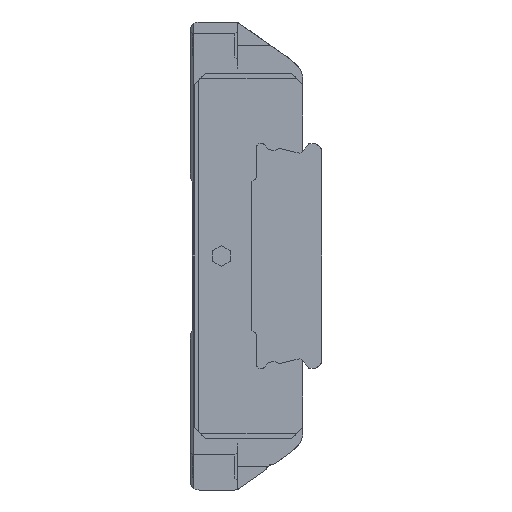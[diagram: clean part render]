
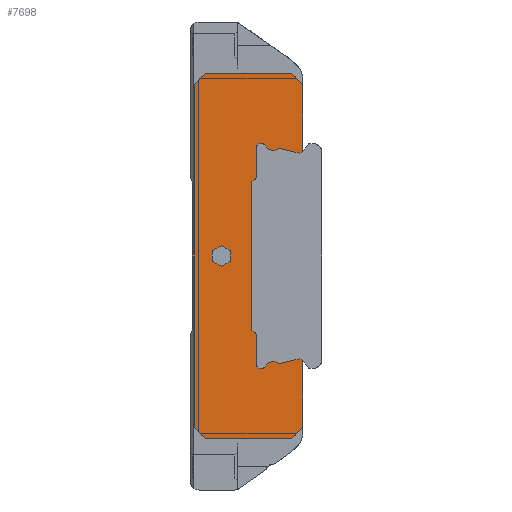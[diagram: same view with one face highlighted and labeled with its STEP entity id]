
A CAD part, left-side view. The second image highlights one B-rep face of the part: STEP entity #7698.
In plain terms, the highlighted planar face has unit normal (-1, 0, 0).
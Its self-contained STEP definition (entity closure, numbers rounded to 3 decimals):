
#467=CIRCLE('',#8677,1.1);
#468=CIRCLE('',#8678,0.5);
#469=CIRCLE('',#8679,0.5);
#470=CIRCLE('',#8680,1.03);
#471=CIRCLE('',#8681,0.2);
#472=CIRCLE('',#8682,0.2);
#473=CIRCLE('',#8683,1.03);
#474=CIRCLE('',#8684,0.1);
#475=CIRCLE('',#8685,0.1);
#476=CIRCLE('',#8686,1.03);
#477=CIRCLE('',#8687,0.2);
#478=CIRCLE('',#8688,0.2);
#479=CIRCLE('',#8689,1.03);
#2529=ORIENTED_EDGE('',*,*,#3639,.T.);
#2530=ORIENTED_EDGE('',*,*,#3640,.T.);
#2531=ORIENTED_EDGE('',*,*,#3641,.F.);
#2532=ORIENTED_EDGE('',*,*,#3481,.F.);
#2533=ORIENTED_EDGE('',*,*,#3464,.F.);
#2534=ORIENTED_EDGE('',*,*,#3460,.F.);
#2535=ORIENTED_EDGE('',*,*,#3454,.F.);
#2536=ORIENTED_EDGE('',*,*,#3479,.F.);
#2537=ORIENTED_EDGE('',*,*,#3441,.F.);
#2538=ORIENTED_EDGE('',*,*,#3473,.F.);
#2539=ORIENTED_EDGE('',*,*,#3470,.F.);
#2540=ORIENTED_EDGE('',*,*,#3582,.F.);
#2541=ORIENTED_EDGE('',*,*,#3642,.F.);
#2542=ORIENTED_EDGE('',*,*,#3643,.T.);
#2543=ORIENTED_EDGE('',*,*,#3644,.F.);
#2544=ORIENTED_EDGE('',*,*,#3645,.T.);
#2545=ORIENTED_EDGE('',*,*,#3646,.T.);
#2546=ORIENTED_EDGE('',*,*,#3647,.T.);
#2547=ORIENTED_EDGE('',*,*,#3648,.T.);
#2548=ORIENTED_EDGE('',*,*,#3649,.T.);
#2549=ORIENTED_EDGE('',*,*,#3650,.F.);
#2550=ORIENTED_EDGE('',*,*,#3651,.T.);
#2551=ORIENTED_EDGE('',*,*,#3652,.T.);
#2552=ORIENTED_EDGE('',*,*,#3653,.T.);
#2553=ORIENTED_EDGE('',*,*,#3654,.F.);
#2554=ORIENTED_EDGE('',*,*,#3655,.T.);
#2555=ORIENTED_EDGE('',*,*,#3656,.T.);
#2556=ORIENTED_EDGE('',*,*,#3657,.T.);
#2557=ORIENTED_EDGE('',*,*,#3658,.T.);
#2558=ORIENTED_EDGE('',*,*,#3659,.T.);
#2559=ORIENTED_EDGE('',*,*,#3660,.F.);
#3441=EDGE_CURVE('',#4293,#4294,#4727,.T.);
#3454=EDGE_CURVE('',#4304,#4305,#4740,.T.);
#3460=EDGE_CURVE('',#4305,#4309,#4746,.T.);
#3464=EDGE_CURVE('',#4309,#4311,#4750,.T.);
#3470=EDGE_CURVE('',#4315,#4316,#4756,.T.);
#3473=EDGE_CURVE('',#4316,#4293,#4759,.T.);
#3479=EDGE_CURVE('',#4294,#4304,#4765,.T.);
#3481=EDGE_CURVE('',#4311,#4317,#4767,.T.);
#3582=EDGE_CURVE('',#4393,#4315,#4816,.T.);
#3639=EDGE_CURVE('',#4419,#4419,#467,.T.);
#3640=EDGE_CURVE('',#4420,#4421,#4851,.T.);
#3641=EDGE_CURVE('',#4317,#4421,#468,.T.);
#3642=EDGE_CURVE('',#4422,#4393,#469,.T.);
#3643=EDGE_CURVE('',#4422,#4423,#4852,.T.);
#3644=EDGE_CURVE('',#4424,#4423,#470,.T.);
#3645=EDGE_CURVE('',#4424,#4425,#471,.T.);
#3646=EDGE_CURVE('',#4425,#4426,#4853,.T.);
#3647=EDGE_CURVE('',#4426,#4427,#4854,.T.);
#3648=EDGE_CURVE('',#4427,#4428,#472,.T.);
#3649=EDGE_CURVE('',#4428,#4429,#4855,.T.);
#3650=EDGE_CURVE('',#4430,#4429,#473,.T.);
#3651=EDGE_CURVE('',#4430,#4431,#474,.T.);
#3652=EDGE_CURVE('',#4431,#4432,#4856,.T.);
#3653=EDGE_CURVE('',#4432,#4433,#475,.T.);
#3654=EDGE_CURVE('',#4434,#4433,#476,.T.);
#3655=EDGE_CURVE('',#4434,#4435,#4857,.T.);
#3656=EDGE_CURVE('',#4435,#4436,#477,.T.);
#3657=EDGE_CURVE('',#4436,#4437,#4858,.T.);
#3658=EDGE_CURVE('',#4437,#4438,#4859,.T.);
#3659=EDGE_CURVE('',#4438,#4439,#478,.T.);
#3660=EDGE_CURVE('',#4420,#4439,#479,.T.);
#4293=VERTEX_POINT('',#12760);
#4294=VERTEX_POINT('',#12762);
#4304=VERTEX_POINT('',#12785);
#4305=VERTEX_POINT('',#12787);
#4309=VERTEX_POINT('',#12799);
#4311=VERTEX_POINT('',#12806);
#4315=VERTEX_POINT('',#12816);
#4316=VERTEX_POINT('',#12818);
#4317=VERTEX_POINT('',#12837);
#4393=VERTEX_POINT('',#13092);
#4419=VERTEX_POINT('',#13239);
#4420=VERTEX_POINT('',#13241);
#4421=VERTEX_POINT('',#13242);
#4422=VERTEX_POINT('',#13245);
#4423=VERTEX_POINT('',#13247);
#4424=VERTEX_POINT('',#13249);
#4425=VERTEX_POINT('',#13251);
#4426=VERTEX_POINT('',#13253);
#4427=VERTEX_POINT('',#13255);
#4428=VERTEX_POINT('',#13257);
#4429=VERTEX_POINT('',#13259);
#4430=VERTEX_POINT('',#13261);
#4431=VERTEX_POINT('',#13263);
#4432=VERTEX_POINT('',#13265);
#4433=VERTEX_POINT('',#13267);
#4434=VERTEX_POINT('',#13269);
#4435=VERTEX_POINT('',#13271);
#4436=VERTEX_POINT('',#13273);
#4437=VERTEX_POINT('',#13275);
#4438=VERTEX_POINT('',#13277);
#4439=VERTEX_POINT('',#13279);
#4727=LINE('',#12761,#5159);
#4740=LINE('',#12786,#5172);
#4746=LINE('',#12798,#5178);
#4750=LINE('',#12805,#5182);
#4756=LINE('',#12817,#5188);
#4759=LINE('',#12822,#5191);
#4765=LINE('',#12832,#5197);
#4767=LINE('',#12836,#5199);
#4816=LINE('',#13093,#5248);
#4851=LINE('',#13240,#5283);
#4852=LINE('',#13246,#5284);
#4853=LINE('',#13252,#5285);
#4854=LINE('',#13254,#5286);
#4855=LINE('',#13258,#5287);
#4856=LINE('',#13264,#5288);
#4857=LINE('',#13270,#5289);
#4858=LINE('',#13274,#5290);
#4859=LINE('',#13276,#5291);
#5159=VECTOR('',#10557,1000.);
#5172=VECTOR('',#10572,1000.);
#5178=VECTOR('',#10582,1000.);
#5182=VECTOR('',#10588,1000.);
#5188=VECTOR('',#10596,1000.);
#5191=VECTOR('',#10601,1000.);
#5197=VECTOR('',#10615,1000.);
#5199=VECTOR('',#10621,1000.);
#5248=VECTOR('',#10810,1000.);
#5283=VECTOR('',#10959,1000.);
#5284=VECTOR('',#10964,1000.);
#5285=VECTOR('',#10969,1000.);
#5286=VECTOR('',#10970,1000.);
#5287=VECTOR('',#10973,1000.);
#5288=VECTOR('',#10978,1000.);
#5289=VECTOR('',#10983,1000.);
#5290=VECTOR('',#10986,1000.);
#5291=VECTOR('',#10987,1000.);
#6148=EDGE_LOOP('',(#2529));
#6149=EDGE_LOOP('',(#2530,#2531,#2532,#2533,#2534,#2535,#2536,#2537,#2538,
#2539,#2540,#2541,#2542,#2543,#2544,#2545,#2546,#2547,#2548,#2549,#2550,
#2551,#2552,#2553,#2554,#2555,#2556,#2557,#2558,#2559));
#7014=FACE_BOUND('',#6148,.T.);
#7015=FACE_BOUND('',#6149,.T.);
#7251=PLANE('',#8676);
#7698=ADVANCED_FACE('',(#7014,#7015),#7251,.F.);
#8676=AXIS2_PLACEMENT_3D('',#13237,#10955,#10956);
#8677=AXIS2_PLACEMENT_3D('',#13238,#10957,#10958);
#8678=AXIS2_PLACEMENT_3D('',#13243,#10960,#10961);
#8679=AXIS2_PLACEMENT_3D('',#13244,#10962,#10963);
#8680=AXIS2_PLACEMENT_3D('',#13248,#10965,#10966);
#8681=AXIS2_PLACEMENT_3D('',#13250,#10967,#10968);
#8682=AXIS2_PLACEMENT_3D('',#13256,#10971,#10972);
#8683=AXIS2_PLACEMENT_3D('',#13260,#10974,#10975);
#8684=AXIS2_PLACEMENT_3D('',#13262,#10976,#10977);
#8685=AXIS2_PLACEMENT_3D('',#13266,#10979,#10980);
#8686=AXIS2_PLACEMENT_3D('',#13268,#10981,#10982);
#8687=AXIS2_PLACEMENT_3D('',#13272,#10984,#10985);
#8688=AXIS2_PLACEMENT_3D('',#13278,#10988,#10989);
#8689=AXIS2_PLACEMENT_3D('',#13280,#10990,#10991);
#10557=DIRECTION('',(0.,0.707,0.707));
#10572=DIRECTION('',(0.,-0.707,0.707));
#10582=DIRECTION('',(0.,-1.,0.));
#10588=DIRECTION('',(0.,-0.707,-0.707));
#10596=DIRECTION('',(0.,0.707,-0.707));
#10601=DIRECTION('',(0.,1.,0.));
#10615=DIRECTION('',(0.,0.,1.));
#10621=DIRECTION('',(0.,0.,-1.));
#10810=DIRECTION('',(0.,0.,-1.));
#10955=DIRECTION('',(1.,0.,0.));
#10956=DIRECTION('',(0.,0.,-1.));
#10957=DIRECTION('',(1.,0.,0.));
#10958=DIRECTION('',(0.,0.,-1.));
#10959=DIRECTION('',(0.,-0.972,-0.237));
#10960=DIRECTION('',(1.,0.,0.));
#10961=DIRECTION('',(0.,0.,-1.));
#10962=DIRECTION('',(1.,0.,0.));
#10963=DIRECTION('',(0.,0.,-1.));
#10964=DIRECTION('',(0.,0.972,-0.237));
#10965=DIRECTION('',(1.,0.,0.));
#10966=DIRECTION('',(0.,0.,-1.));
#10967=DIRECTION('',(1.,0.,0.));
#10968=DIRECTION('',(0.,0.,-1.));
#10969=DIRECTION('',(0.,1.,0.));
#10970=DIRECTION('',(0.,0.707,0.707));
#10971=DIRECTION('',(1.,0.,0.));
#10972=DIRECTION('',(0.,0.,-1.));
#10973=DIRECTION('',(0.,0.,1.));
#10974=DIRECTION('',(1.,0.,0.));
#10975=DIRECTION('',(0.,0.,-1.));
#10976=DIRECTION('',(1.,0.,0.));
#10977=DIRECTION('',(0.,0.,-1.));
#10978=DIRECTION('',(0.,0.,1.));
#10979=DIRECTION('',(1.,0.,0.));
#10980=DIRECTION('',(0.,0.,-1.));
#10981=DIRECTION('',(1.,0.,0.));
#10982=DIRECTION('',(0.,0.,-1.));
#10983=DIRECTION('',(0.,0.,1.));
#10984=DIRECTION('',(1.,0.,0.));
#10985=DIRECTION('',(0.,0.,-1.));
#10986=DIRECTION('',(0.,-0.707,0.707));
#10987=DIRECTION('',(0.,-1.,0.));
#10988=DIRECTION('',(1.,0.,0.));
#10989=DIRECTION('',(0.,0.,-1.));
#10990=DIRECTION('',(1.,0.,0.));
#10991=DIRECTION('',(0.,0.,-1.));
#12760=CARTESIAN_POINT('',(-22.75,10.4,-19.5));
#12761=CARTESIAN_POINT('',(-22.75,10.4,-19.5));
#12762=CARTESIAN_POINT('',(-22.75,11.6,-18.3));
#12785=CARTESIAN_POINT('',(-22.75,11.6,18.3));
#12786=CARTESIAN_POINT('',(-22.75,11.6,18.3));
#12787=CARTESIAN_POINT('',(-22.75,10.4,19.5));
#12798=CARTESIAN_POINT('',(-22.75,10.4,19.5));
#12799=CARTESIAN_POINT('',(-22.75,1.2,19.5));
#12805=CARTESIAN_POINT('',(-22.75,1.2,19.5));
#12806=CARTESIAN_POINT('',(-22.75,0.,18.3));
#12816=CARTESIAN_POINT('',(-22.75,0.,-18.3));
#12817=CARTESIAN_POINT('',(-22.75,0.,-18.3));
#12818=CARTESIAN_POINT('',(-22.75,1.2,-19.5));
#12822=CARTESIAN_POINT('',(-22.75,1.2,-19.5));
#12832=CARTESIAN_POINT('',(-22.75,11.6,-18.3));
#12836=CARTESIAN_POINT('',(-22.75,0.,18.3));
#12837=CARTESIAN_POINT('',(-22.75,0.,11.182));
#13092=CARTESIAN_POINT('',(-22.75,0.,-11.182));
#13093=CARTESIAN_POINT('',(-22.75,0.,18.3));
#13237=CARTESIAN_POINT('',(-22.75,0.,0.));
#13238=CARTESIAN_POINT('',(-22.75,8.7,0.));
#13239=CARTESIAN_POINT('',(-22.75,8.7,-1.1));
#13240=CARTESIAN_POINT('',(-22.75,2.491,11.493));
#13241=CARTESIAN_POINT('',(-22.75,2.491,11.493));
#13242=CARTESIAN_POINT('',(-22.75,0.507,11.01));
#13243=CARTESIAN_POINT('',(-22.75,0.389,11.496));
#13244=CARTESIAN_POINT('',(-22.75,0.389,-11.496));
#13245=CARTESIAN_POINT('',(-22.75,0.507,-11.01));
#13246=CARTESIAN_POINT('',(-22.75,0.507,-11.01));
#13247=CARTESIAN_POINT('',(-22.75,2.491,-11.493));
#13248=CARTESIAN_POINT('',(-22.75,3.17,-12.268));
#13249=CARTESIAN_POINT('',(-22.75,4.123,-11.876));
#13250=CARTESIAN_POINT('',(-22.75,4.307,-11.8));
#13251=CARTESIAN_POINT('',(-22.75,4.307,-12.));
#13252=CARTESIAN_POINT('',(-22.75,4.307,-12.));
#13253=CARTESIAN_POINT('',(-22.75,4.7,-12.));
#13254=CARTESIAN_POINT('',(-22.75,4.7,-12.));
#13255=CARTESIAN_POINT('',(-22.75,4.841,-11.859));
#13256=CARTESIAN_POINT('',(-22.75,4.7,-11.717));
#13257=CARTESIAN_POINT('',(-22.75,4.9,-11.717));
#13258=CARTESIAN_POINT('',(-22.75,4.9,-11.717));
#13259=CARTESIAN_POINT('',(-22.75,4.9,-8.375));
#13260=CARTESIAN_POINT('',(-22.75,5.768,-8.93));
#13261=CARTESIAN_POINT('',(-22.75,5.433,-7.956));
#13262=CARTESIAN_POINT('',(-22.75,5.4,-7.862));
#13263=CARTESIAN_POINT('',(-22.75,5.5,-7.862));
#13264=CARTESIAN_POINT('',(-22.75,5.5,-7.862));
#13265=CARTESIAN_POINT('',(-22.75,5.5,7.862));
#13266=CARTESIAN_POINT('',(-22.75,5.4,7.862));
#13267=CARTESIAN_POINT('',(-22.75,5.433,7.956));
#13268=CARTESIAN_POINT('',(-22.75,5.768,8.93));
#13269=CARTESIAN_POINT('',(-22.75,4.9,8.375));
#13270=CARTESIAN_POINT('',(-22.75,4.9,8.375));
#13271=CARTESIAN_POINT('',(-22.75,4.9,11.717));
#13272=CARTESIAN_POINT('',(-22.75,4.7,11.717));
#13273=CARTESIAN_POINT('',(-22.75,4.841,11.859));
#13274=CARTESIAN_POINT('',(-22.75,4.841,11.859));
#13275=CARTESIAN_POINT('',(-22.75,4.7,12.));
#13276=CARTESIAN_POINT('',(-22.75,4.7,12.));
#13277=CARTESIAN_POINT('',(-22.75,4.307,12.));
#13278=CARTESIAN_POINT('',(-22.75,4.307,11.8));
#13279=CARTESIAN_POINT('',(-22.75,4.123,11.876));
#13280=CARTESIAN_POINT('',(-22.75,3.17,12.268));
